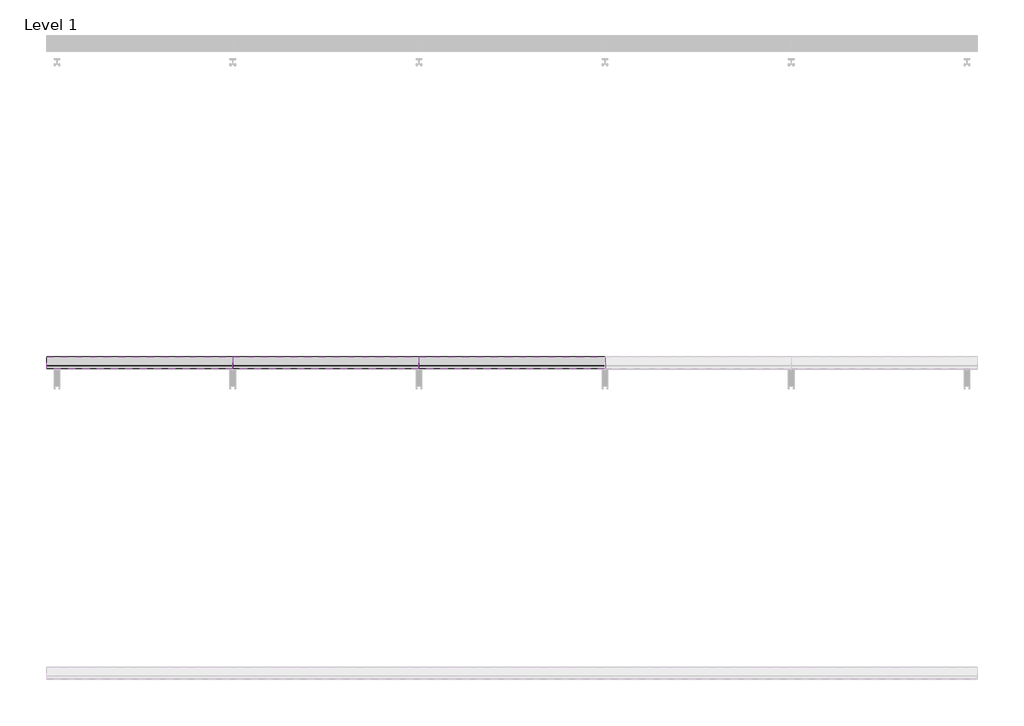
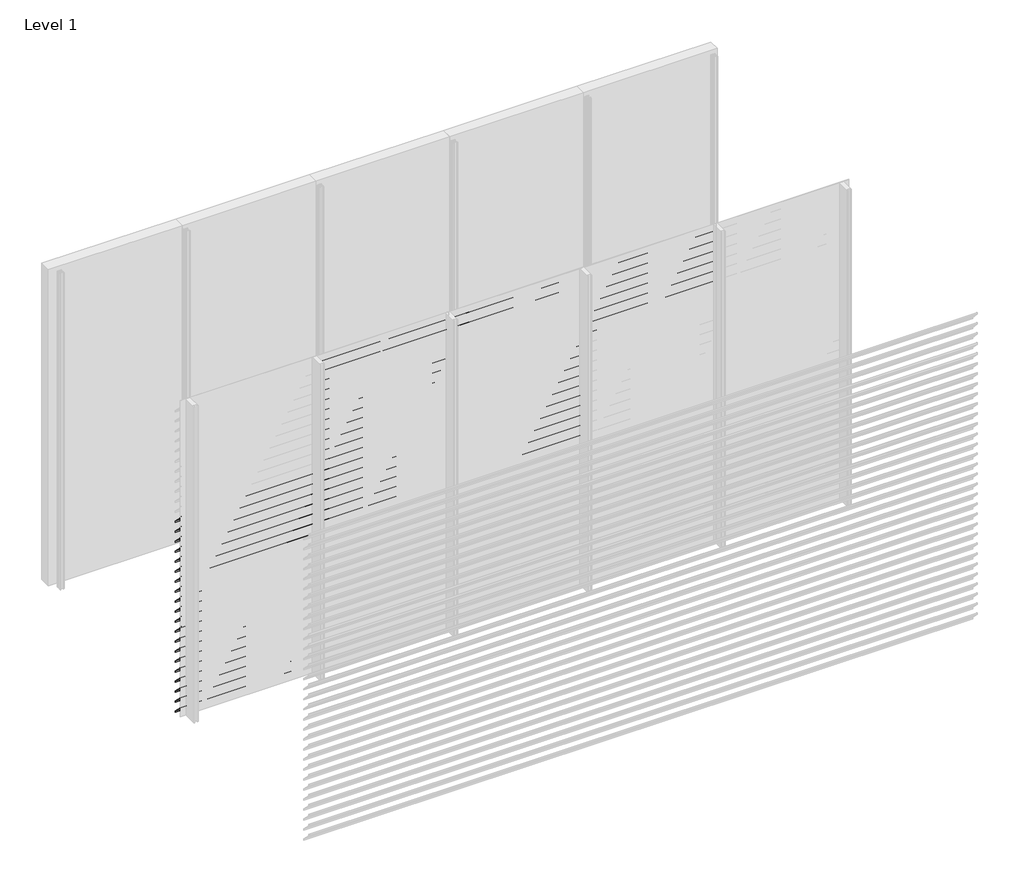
# One storey, part 6 of 24: 89 proxies.
"""IFC4 building model written with IfcOpenShell, lengths in millimetres."""

from ifc_helpers import new_model, si_unit, frame, origin, place, context, project, spatial, polyline, outline, extrude, element, save

model = new_model("IFC4")

# Units and contexts
model_context = context("Model", 3, world=origin())
ifc_project = project(units=[si_unit("LENGTHUNIT", "METRE", prefix="MILLI")], contexts=[model_context])

# Site, building, storey
site = spatial("IfcSite", under=ifc_project)
building = spatial("IfcBuilding", under=site)
storey = spatial("IfcBuildingStorey", under=building, Name="Level 1", Elevation=0.0)

# Proxies
placement = place(None, origin())
element("IfcBuildingElementProxy", 1, Name="Wall Sweeps", at=placement, inside=storey, context=model_context, shape_type="SweptSolid", body=[
    extrude(outline(polyline([(-47920.8, 1797.9), (-47922.3, 1797.9), (-47922.3, 1810.1762333), (-47998.0, 1885.4561238), (-47998.0, 1900.0), (-47996.5, 1900.0), (-47996.5, 1886.0798905), (-47920.8, 1810.8), (-47920.8, 1797.9)])), frame((0.0, 0.0, 0.0), z_axis=(1.0, 0.0, 0.0), x_axis=(0.0, 1.0, 0.0)), (0.0, 0.0, 1.0), 1200.0),
])
element("IfcBuildingElementProxy", 2, Name="Wall Sweeps", at=placement, inside=storey, context=model_context, shape_type="SweptSolid", body=[
    extrude(outline(polyline([(-47920.8, 1702.9), (-47922.3, 1702.9), (-47922.3, 1715.1762333), (-47998.0, 1790.4561238), (-47998.0, 1805.0), (-47996.5, 1805.0), (-47996.5, 1791.0798905), (-47920.8, 1715.8), (-47920.8, 1702.9)])), frame((0.0, 0.0, 0.0), z_axis=(1.0, 0.0, 0.0), x_axis=(0.0, 1.0, 0.0)), (0.0, 0.0, 1.0), 1200.0),
])
element("IfcBuildingElementProxy", 3, Name="Wall Sweeps", at=placement, inside=storey, context=model_context, shape_type="SweptSolid", body=[
    extrude(outline(polyline([(-47920.8, 1607.9), (-47922.3, 1607.9), (-47922.3, 1620.1762333), (-47998.0, 1695.4561238), (-47998.0, 1710.0), (-47996.5, 1710.0), (-47996.5, 1696.0798905), (-47920.8, 1620.8), (-47920.8, 1607.9)])), frame((0.0, 0.0, 0.0), z_axis=(1.0, 0.0, 0.0), x_axis=(0.0, 1.0, 0.0)), (0.0, 0.0, 1.0), 1200.0),
])
element("IfcBuildingElementProxy", 4, Name="Wall Sweeps", at=placement, inside=storey, context=model_context, shape_type="SweptSolid", body=[
    extrude(outline(polyline([(-47920.8, 1512.9), (-47922.3, 1512.9), (-47922.3, 1525.1762333), (-47998.0, 1600.4561238), (-47998.0, 1615.0), (-47996.5, 1615.0), (-47996.5, 1601.0798905), (-47920.8, 1525.8), (-47920.8, 1512.9)])), frame((0.0, 0.0, 0.0), z_axis=(1.0, 0.0, 0.0), x_axis=(0.0, 1.0, 0.0)), (0.0, 0.0, 1.0), 1200.0),
])
element("IfcBuildingElementProxy", 5, Name="Wall Sweeps", at=placement, inside=storey, context=model_context, shape_type="SweptSolid", body=[
    extrude(outline(polyline([(-47920.8, 1417.9), (-47922.3, 1417.9), (-47922.3, 1430.1762333), (-47998.0, 1505.4561238), (-47998.0, 1520.0), (-47996.5, 1520.0), (-47996.5, 1506.0798905), (-47920.8, 1430.8), (-47920.8, 1417.9)])), frame((0.0, 0.0, 0.0), z_axis=(1.0, 0.0, 0.0), x_axis=(0.0, 1.0, 0.0)), (0.0, 0.0, 1.0), 1200.0),
])
element("IfcBuildingElementProxy", 6, Name="Wall Sweeps", at=placement, inside=storey, context=model_context, shape_type="SweptSolid", body=[
    extrude(outline(polyline([(-47920.8, 1322.9), (-47922.3, 1322.9), (-47922.3, 1335.1762333), (-47998.0, 1410.4561238), (-47998.0, 1425.0), (-47996.5, 1425.0), (-47996.5, 1411.0798905), (-47920.8, 1335.8), (-47920.8, 1322.9)])), frame((0.0, 0.0, 0.0), z_axis=(1.0, 0.0, 0.0), x_axis=(0.0, 1.0, 0.0)), (0.0, 0.0, 1.0), 1200.0),
])
element("IfcBuildingElementProxy", 7, Name="Wall Sweeps", at=placement, inside=storey, context=model_context, shape_type="SweptSolid", body=[
    extrude(outline(polyline([(-47920.8, 1227.9), (-47922.3, 1227.9), (-47922.3, 1240.1762333), (-47998.0, 1315.4561238), (-47998.0, 1330.0), (-47996.5, 1330.0), (-47996.5, 1316.0798905), (-47920.8, 1240.8), (-47920.8, 1227.9)])), frame((0.0, 0.0, 0.0), z_axis=(1.0, 0.0, 0.0), x_axis=(0.0, 1.0, 0.0)), (0.0, 0.0, 1.0), 1200.0),
])
element("IfcBuildingElementProxy", 8, Name="Wall Sweeps", at=placement, inside=storey, context=model_context, shape_type="SweptSolid", body=[
    extrude(outline(polyline([(-47920.8, 1132.9), (-47922.3, 1132.9), (-47922.3, 1145.1762333), (-47998.0, 1220.4561238), (-47998.0, 1235.0), (-47996.5, 1235.0), (-47996.5, 1221.0798905), (-47920.8, 1145.8), (-47920.8, 1132.9)])), frame((0.0, 0.0, 0.0), z_axis=(1.0, 0.0, 0.0), x_axis=(0.0, 1.0, 0.0)), (0.0, 0.0, 1.0), 1200.0),
])
element("IfcBuildingElementProxy", 9, Name="Wall Sweeps", at=placement, inside=storey, context=model_context, shape_type="SweptSolid", body=[
    extrude(outline(polyline([(-47920.8, 1037.9), (-47922.3, 1037.9), (-47922.3, 1050.1762333), (-47998.0, 1125.4561238), (-47998.0, 1140.0), (-47996.5, 1140.0), (-47996.5, 1126.0798905), (-47920.8, 1050.8), (-47920.8, 1037.9)])), frame((0.0, 0.0, 0.0), z_axis=(1.0, 0.0, 0.0), x_axis=(0.0, 1.0, 0.0)), (0.0, 0.0, 1.0), 1200.0),
])
element("IfcBuildingElementProxy", 10, Name="Wall Sweeps", at=placement, inside=storey, context=model_context, shape_type="SweptSolid", body=[
    extrude(outline(polyline([(-47920.8, 942.9), (-47922.3, 942.9), (-47922.3, 955.1762333), (-47998.0, 1030.4561238), (-47998.0, 1045.0), (-47996.5, 1045.0), (-47996.5, 1031.0798905), (-47920.8, 955.8), (-47920.8, 942.9)])), frame((0.0, 0.0, 0.0), z_axis=(1.0, 0.0, 0.0), x_axis=(0.0, 1.0, 0.0)), (0.0, 0.0, 1.0), 1200.0),
])
element("IfcBuildingElementProxy", 11, Name="Wall Sweeps", at=placement, inside=storey, context=model_context, shape_type="SweptSolid", body=[
    extrude(outline(polyline([(-47920.8, 847.9), (-47922.3, 847.9), (-47922.3, 860.1762333), (-47998.0, 935.4561238), (-47998.0, 950.0), (-47996.5, 950.0), (-47996.5, 936.0798905), (-47920.8, 860.8), (-47920.8, 847.9)])), frame((0.0, 0.0, 0.0), z_axis=(1.0, 0.0, 0.0), x_axis=(0.0, 1.0, 0.0)), (0.0, 0.0, 1.0), 1200.0),
])
element("IfcBuildingElementProxy", 12, Name="Wall Sweeps", at=placement, inside=storey, context=model_context, shape_type="SweptSolid", body=[
    extrude(outline(polyline([(-47920.8, 752.9), (-47922.3, 752.9), (-47922.3, 765.1762333), (-47998.0, 840.4561238), (-47998.0, 855.0), (-47996.5, 855.0), (-47996.5, 841.0798905), (-47920.8, 765.8), (-47920.8, 752.9)])), frame((0.0, 0.0, 0.0), z_axis=(1.0, 0.0, 0.0), x_axis=(0.0, 1.0, 0.0)), (0.0, 0.0, 1.0), 1200.0),
])
element("IfcBuildingElementProxy", 13, Name="Wall Sweeps", at=placement, inside=storey, context=model_context, shape_type="SweptSolid", body=[
    extrude(outline(polyline([(-47920.8, 657.9), (-47922.3, 657.9), (-47922.3, 670.1762333), (-47998.0, 745.4561238), (-47998.0, 760.0), (-47996.5, 760.0), (-47996.5, 746.0798905), (-47920.8, 670.8), (-47920.8, 657.9)])), frame((0.0, 0.0, 0.0), z_axis=(1.0, 0.0, 0.0), x_axis=(0.0, 1.0, 0.0)), (0.0, 0.0, 1.0), 1200.0),
])
element("IfcBuildingElementProxy", 14, Name="Wall Sweeps", at=placement, inside=storey, context=model_context, shape_type="SweptSolid", body=[
    extrude(outline(polyline([(-47920.8, 562.9), (-47922.3, 562.9), (-47922.3, 575.1762333), (-47998.0, 650.4561238), (-47998.0, 665.0), (-47996.5, 665.0), (-47996.5, 651.0798905), (-47920.8, 575.8), (-47920.8, 562.9)])), frame((0.0, 0.0, 0.0), z_axis=(1.0, 0.0, 0.0), x_axis=(0.0, 1.0, 0.0)), (0.0, 0.0, 1.0), 1200.0),
])
element("IfcBuildingElementProxy", 15, Name="Wall Sweeps", at=placement, inside=storey, context=model_context, shape_type="SweptSolid", body=[
    extrude(outline(polyline([(-47920.8, 467.9), (-47922.3, 467.9), (-47922.3, 480.1762333), (-47998.0, 555.4561238), (-47998.0, 570.0), (-47996.5, 570.0), (-47996.5, 556.0798905), (-47920.8, 480.8), (-47920.8, 467.9)])), frame((0.0, 0.0, 0.0), z_axis=(1.0, 0.0, 0.0), x_axis=(0.0, 1.0, 0.0)), (0.0, 0.0, 1.0), 1200.0),
])
element("IfcBuildingElementProxy", 16, Name="Wall Sweeps", at=placement, inside=storey, context=model_context, shape_type="SweptSolid", body=[
    extrude(outline(polyline([(-47920.8, 372.9), (-47922.3, 372.9), (-47922.3, 385.1762333), (-47998.0, 460.4561238), (-47998.0, 475.0), (-47996.5, 475.0), (-47996.5, 461.0798905), (-47920.8, 385.8), (-47920.8, 372.9)])), frame((0.0, 0.0, 0.0), z_axis=(1.0, 0.0, 0.0), x_axis=(0.0, 1.0, 0.0)), (0.0, 0.0, 1.0), 1200.0),
])
element("IfcBuildingElementProxy", 17, Name="Wall Sweeps", at=placement, inside=storey, context=model_context, shape_type="SweptSolid", body=[
    extrude(outline(polyline([(-47920.8, 277.9), (-47922.3, 277.9), (-47922.3, 290.1762333), (-47998.0, 365.4561238), (-47998.0, 380.0), (-47996.5, 380.0), (-47996.5, 366.0798905), (-47920.8, 290.8), (-47920.8, 277.9)])), frame((0.0, 0.0, 0.0), z_axis=(1.0, 0.0, 0.0), x_axis=(0.0, 1.0, 0.0)), (0.0, 0.0, 1.0), 1200.0),
])
element("IfcBuildingElementProxy", 18, Name="Wall Sweeps", at=placement, inside=storey, context=model_context, shape_type="SweptSolid", body=[
    extrude(outline(polyline([(-47920.8, 182.9), (-47922.3, 182.9), (-47922.3, 195.1762333), (-47998.0, 270.4561238), (-47998.0, 285.0), (-47996.5, 285.0), (-47996.5, 271.0798905), (-47920.8, 195.8), (-47920.8, 182.9)])), frame((0.0, 0.0, 0.0), z_axis=(1.0, 0.0, 0.0), x_axis=(0.0, 1.0, 0.0)), (0.0, 0.0, 1.0), 1200.0),
])
element("IfcBuildingElementProxy", 19, Name="Wall Sweeps", at=placement, inside=storey, context=model_context, shape_type="SweptSolid", body=[
    extrude(outline(polyline([(-47920.8, 87.9), (-47922.3, 87.9), (-47922.3, 100.1762333), (-47998.0, 175.4561238), (-47998.0, 190.0), (-47996.5, 190.0), (-47996.5, 176.0798905), (-47920.8, 100.8), (-47920.8, 87.9)])), frame((0.0, 0.0, 0.0), z_axis=(1.0, 0.0, 0.0), x_axis=(0.0, 1.0, 0.0)), (0.0, 0.0, 1.0), 1200.0),
])
element("IfcBuildingElementProxy", 20, Name="Wall Sweeps", at=placement, inside=storey, context=model_context, shape_type="SweptSolid", body=[
    extrude(outline(polyline([(-47920.8, -7.1), (-47922.3, -7.1), (-47922.3, 5.1762333), (-47998.0, 80.4561238), (-47998.0, 95.0), (-47996.5, 95.0), (-47996.5, 81.0798905), (-47920.8, 5.8), (-47920.8, -7.1)])), frame((0.0, 0.0, 0.0), z_axis=(1.0, 0.0, 0.0), x_axis=(0.0, 1.0, 0.0)), (0.0, 0.0, 1.0), 1200.0),
])
element("IfcBuildingElementProxy", 21, Name="Wall Sweeps", at=placement, inside=storey, context=model_context, shape_type="SweptSolid", body=[
    extrude(outline(polyline([(-47920.8, 2842.9), (-47922.3, 2842.9), (-47922.3, 2855.1762333), (-47998.0, 2930.4561238), (-47998.0, 2945.0), (-47996.5, 2945.0), (-47996.5, 2931.0798905), (-47920.8, 2855.8), (-47920.8, 2842.9)])), frame((1200.0, 0.0, 0.0), z_axis=(1.0, 0.0, 0.0), x_axis=(0.0, 1.0, 0.0)), (0.0, 0.0, 1.0), 1200.0),
])
element("IfcBuildingElementProxy", 22, Name="Wall Sweeps", at=placement, inside=storey, context=model_context, shape_type="SweptSolid", body=[
    extrude(outline(polyline([(-47920.8, 2747.9), (-47922.3, 2747.9), (-47922.3, 2760.1762333), (-47998.0, 2835.4561238), (-47998.0, 2850.0), (-47996.5, 2850.0), (-47996.5, 2836.0798905), (-47920.8, 2760.8), (-47920.8, 2747.9)])), frame((1200.0, 0.0, 0.0), z_axis=(1.0, 0.0, 0.0), x_axis=(0.0, 1.0, 0.0)), (0.0, 0.0, 1.0), 1200.0),
])
element("IfcBuildingElementProxy", 23, Name="Wall Sweeps", at=placement, inside=storey, context=model_context, shape_type="SweptSolid", body=[
    extrude(outline(polyline([(-47920.8, 2652.9), (-47922.3, 2652.9), (-47922.3, 2665.1762333), (-47998.0, 2740.4561238), (-47998.0, 2755.0), (-47996.5, 2755.0), (-47996.5, 2741.0798905), (-47920.8, 2665.8), (-47920.8, 2652.9)])), frame((1200.0, 0.0, 0.0), z_axis=(1.0, 0.0, 0.0), x_axis=(0.0, 1.0, 0.0)), (0.0, 0.0, 1.0), 1200.0),
])
element("IfcBuildingElementProxy", 24, Name="Wall Sweeps", at=placement, inside=storey, context=model_context, shape_type="SweptSolid", body=[
    extrude(outline(polyline([(-47920.8, 2557.9), (-47922.3, 2557.9), (-47922.3, 2570.1762333), (-47998.0, 2645.4561238), (-47998.0, 2660.0), (-47996.5, 2660.0), (-47996.5, 2646.0798905), (-47920.8, 2570.8), (-47920.8, 2557.9)])), frame((1200.0, 0.0, 0.0), z_axis=(1.0, 0.0, 0.0), x_axis=(0.0, 1.0, 0.0)), (0.0, 0.0, 1.0), 1200.0),
])
element("IfcBuildingElementProxy", 25, Name="Wall Sweeps", at=placement, inside=storey, context=model_context, shape_type="SweptSolid", body=[
    extrude(outline(polyline([(-47920.8, 2462.9), (-47922.3, 2462.9), (-47922.3, 2475.1762333), (-47998.0, 2550.4561238), (-47998.0, 2565.0), (-47996.5, 2565.0), (-47996.5, 2551.0798905), (-47920.8, 2475.8), (-47920.8, 2462.9)])), frame((1200.0, 0.0, 0.0), z_axis=(1.0, 0.0, 0.0), x_axis=(0.0, 1.0, 0.0)), (0.0, 0.0, 1.0), 1200.0),
])
element("IfcBuildingElementProxy", 26, Name="Wall Sweeps", at=placement, inside=storey, context=model_context, shape_type="SweptSolid", body=[
    extrude(outline(polyline([(-47920.8, 2367.9), (-47922.3, 2367.9), (-47922.3, 2380.1762333), (-47998.0, 2455.4561238), (-47998.0, 2470.0), (-47996.5, 2470.0), (-47996.5, 2456.0798905), (-47920.8, 2380.8), (-47920.8, 2367.9)])), frame((1200.0, 0.0, 0.0), z_axis=(1.0, 0.0, 0.0), x_axis=(0.0, 1.0, 0.0)), (0.0, 0.0, 1.0), 1200.0),
])
element("IfcBuildingElementProxy", 27, Name="Wall Sweeps", at=placement, inside=storey, context=model_context, shape_type="SweptSolid", body=[
    extrude(outline(polyline([(-47920.8, 2272.9), (-47922.3, 2272.9), (-47922.3, 2285.1762333), (-47998.0, 2360.4561238), (-47998.0, 2375.0), (-47996.5, 2375.0), (-47996.5, 2361.0798905), (-47920.8, 2285.8), (-47920.8, 2272.9)])), frame((1200.0, 0.0, 0.0), z_axis=(1.0, 0.0, 0.0), x_axis=(0.0, 1.0, 0.0)), (0.0, 0.0, 1.0), 1200.0),
])
element("IfcBuildingElementProxy", 28, Name="Wall Sweeps", at=placement, inside=storey, context=model_context, shape_type="SweptSolid", body=[
    extrude(outline(polyline([(-47920.8, 2177.9), (-47922.3, 2177.9), (-47922.3, 2190.1762333), (-47998.0, 2265.4561238), (-47998.0, 2280.0), (-47996.5, 2280.0), (-47996.5, 2266.0798905), (-47920.8, 2190.8), (-47920.8, 2177.9)])), frame((1200.0, 0.0, 0.0), z_axis=(1.0, 0.0, 0.0), x_axis=(0.0, 1.0, 0.0)), (0.0, 0.0, 1.0), 1200.0),
])
element("IfcBuildingElementProxy", 29, Name="Wall Sweeps", at=placement, inside=storey, context=model_context, shape_type="SweptSolid", body=[
    extrude(outline(polyline([(-47920.8, 2082.9), (-47922.3, 2082.9), (-47922.3, 2095.1762333), (-47998.0, 2170.4561238), (-47998.0, 2185.0), (-47996.5, 2185.0), (-47996.5, 2171.0798905), (-47920.8, 2095.8), (-47920.8, 2082.9)])), frame((1200.0, 0.0, 0.0), z_axis=(1.0, 0.0, 0.0), x_axis=(0.0, 1.0, 0.0)), (0.0, 0.0, 1.0), 1200.0),
])
element("IfcBuildingElementProxy", 30, Name="Wall Sweeps", at=placement, inside=storey, context=model_context, shape_type="SweptSolid", body=[
    extrude(outline(polyline([(-47920.8, 1987.9), (-47922.3, 1987.9), (-47922.3, 2000.1762333), (-47998.0, 2075.4561238), (-47998.0, 2090.0), (-47996.5, 2090.0), (-47996.5, 2076.0798905), (-47920.8, 2000.8), (-47920.8, 1987.9)])), frame((1200.0, 0.0, 0.0), z_axis=(1.0, 0.0, 0.0), x_axis=(0.0, 1.0, 0.0)), (0.0, 0.0, 1.0), 1200.0),
])
element("IfcBuildingElementProxy", 31, Name="Wall Sweeps", at=placement, inside=storey, context=model_context, shape_type="SweptSolid", body=[
    extrude(outline(polyline([(-47920.8, 1892.9), (-47922.3, 1892.9), (-47922.3, 1905.1762333), (-47998.0, 1980.4561238), (-47998.0, 1995.0), (-47996.5, 1995.0), (-47996.5, 1981.0798905), (-47920.8, 1905.8), (-47920.8, 1892.9)])), frame((1200.0, 0.0, 0.0), z_axis=(1.0, 0.0, 0.0), x_axis=(0.0, 1.0, 0.0)), (0.0, 0.0, 1.0), 1200.0),
])
element("IfcBuildingElementProxy", 32, Name="Wall Sweeps", at=placement, inside=storey, context=model_context, shape_type="SweptSolid", body=[
    extrude(outline(polyline([(-47920.8, 1797.9), (-47922.3, 1797.9), (-47922.3, 1810.1762333), (-47998.0, 1885.4561238), (-47998.0, 1900.0), (-47996.5, 1900.0), (-47996.5, 1886.0798905), (-47920.8, 1810.8), (-47920.8, 1797.9)])), frame((1200.0, 0.0, 0.0), z_axis=(1.0, 0.0, 0.0), x_axis=(0.0, 1.0, 0.0)), (0.0, 0.0, 1.0), 1200.0),
])
element("IfcBuildingElementProxy", 33, Name="Wall Sweeps", at=placement, inside=storey, context=model_context, shape_type="SweptSolid", body=[
    extrude(outline(polyline([(-47920.8, 1702.9), (-47922.3, 1702.9), (-47922.3, 1715.1762333), (-47998.0, 1790.4561238), (-47998.0, 1805.0), (-47996.5, 1805.0), (-47996.5, 1791.0798905), (-47920.8, 1715.8), (-47920.8, 1702.9)])), frame((1200.0, 0.0, 0.0), z_axis=(1.0, 0.0, 0.0), x_axis=(0.0, 1.0, 0.0)), (0.0, 0.0, 1.0), 1200.0),
])
element("IfcBuildingElementProxy", 34, Name="Wall Sweeps", at=placement, inside=storey, context=model_context, shape_type="SweptSolid", body=[
    extrude(outline(polyline([(-47920.8, 1607.9), (-47922.3, 1607.9), (-47922.3, 1620.1762333), (-47998.0, 1695.4561238), (-47998.0, 1710.0), (-47996.5, 1710.0), (-47996.5, 1696.0798905), (-47920.8, 1620.8), (-47920.8, 1607.9)])), frame((1200.0, 0.0, 0.0), z_axis=(1.0, 0.0, 0.0), x_axis=(0.0, 1.0, 0.0)), (0.0, 0.0, 1.0), 1200.0),
])
element("IfcBuildingElementProxy", 35, Name="Wall Sweeps", at=placement, inside=storey, context=model_context, shape_type="SweptSolid", body=[
    extrude(outline(polyline([(-47920.8, 1512.9), (-47922.3, 1512.9), (-47922.3, 1525.1762333), (-47998.0, 1600.4561238), (-47998.0, 1615.0), (-47996.5, 1615.0), (-47996.5, 1601.0798905), (-47920.8, 1525.8), (-47920.8, 1512.9)])), frame((1200.0, 0.0, 0.0), z_axis=(1.0, 0.0, 0.0), x_axis=(0.0, 1.0, 0.0)), (0.0, 0.0, 1.0), 1200.0),
])
element("IfcBuildingElementProxy", 36, Name="Wall Sweeps", at=placement, inside=storey, context=model_context, shape_type="SweptSolid", body=[
    extrude(outline(polyline([(-47920.8, 1417.9), (-47922.3, 1417.9), (-47922.3, 1430.1762333), (-47998.0, 1505.4561238), (-47998.0, 1520.0), (-47996.5, 1520.0), (-47996.5, 1506.0798905), (-47920.8, 1430.8), (-47920.8, 1417.9)])), frame((1200.0, 0.0, 0.0), z_axis=(1.0, 0.0, 0.0), x_axis=(0.0, 1.0, 0.0)), (0.0, 0.0, 1.0), 1200.0),
])
element("IfcBuildingElementProxy", 37, Name="Wall Sweeps", at=placement, inside=storey, context=model_context, shape_type="SweptSolid", body=[
    extrude(outline(polyline([(-47920.8, 1322.9), (-47922.3, 1322.9), (-47922.3, 1335.1762333), (-47998.0, 1410.4561238), (-47998.0, 1425.0), (-47996.5, 1425.0), (-47996.5, 1411.0798905), (-47920.8, 1335.8), (-47920.8, 1322.9)])), frame((1200.0, 0.0, 0.0), z_axis=(1.0, 0.0, 0.0), x_axis=(0.0, 1.0, 0.0)), (0.0, 0.0, 1.0), 1200.0),
])
element("IfcBuildingElementProxy", 38, Name="Wall Sweeps", at=placement, inside=storey, context=model_context, shape_type="SweptSolid", body=[
    extrude(outline(polyline([(-47920.8, 1227.9), (-47922.3, 1227.9), (-47922.3, 1240.1762333), (-47998.0, 1315.4561238), (-47998.0, 1330.0), (-47996.5, 1330.0), (-47996.5, 1316.0798905), (-47920.8, 1240.8), (-47920.8, 1227.9)])), frame((1200.0, 0.0, 0.0), z_axis=(1.0, 0.0, 0.0), x_axis=(0.0, 1.0, 0.0)), (0.0, 0.0, 1.0), 1200.0),
])
element("IfcBuildingElementProxy", 39, Name="Wall Sweeps", at=placement, inside=storey, context=model_context, shape_type="SweptSolid", body=[
    extrude(outline(polyline([(-47920.8, 1132.9), (-47922.3, 1132.9), (-47922.3, 1145.1762333), (-47998.0, 1220.4561238), (-47998.0, 1235.0), (-47996.5, 1235.0), (-47996.5, 1221.0798905), (-47920.8, 1145.8), (-47920.8, 1132.9)])), frame((1200.0, 0.0, 0.0), z_axis=(1.0, 0.0, 0.0), x_axis=(0.0, 1.0, 0.0)), (0.0, 0.0, 1.0), 1200.0),
])
element("IfcBuildingElementProxy", 40, Name="Wall Sweeps", at=placement, inside=storey, context=model_context, shape_type="SweptSolid", body=[
    extrude(outline(polyline([(-47920.8, 1037.9), (-47922.3, 1037.9), (-47922.3, 1050.1762333), (-47998.0, 1125.4561238), (-47998.0, 1140.0), (-47996.5, 1140.0), (-47996.5, 1126.0798905), (-47920.8, 1050.8), (-47920.8, 1037.9)])), frame((1200.0, 0.0, 0.0), z_axis=(1.0, 0.0, 0.0), x_axis=(0.0, 1.0, 0.0)), (0.0, 0.0, 1.0), 1200.0),
])
element("IfcBuildingElementProxy", 41, Name="Wall Sweeps", at=placement, inside=storey, context=model_context, shape_type="SweptSolid", body=[
    extrude(outline(polyline([(-47920.8, 942.9), (-47922.3, 942.9), (-47922.3, 955.1762333), (-47998.0, 1030.4561238), (-47998.0, 1045.0), (-47996.5, 1045.0), (-47996.5, 1031.0798905), (-47920.8, 955.8), (-47920.8, 942.9)])), frame((1200.0, 0.0, 0.0), z_axis=(1.0, 0.0, 0.0), x_axis=(0.0, 1.0, 0.0)), (0.0, 0.0, 1.0), 1200.0),
])
element("IfcBuildingElementProxy", 42, Name="Wall Sweeps", at=placement, inside=storey, context=model_context, shape_type="SweptSolid", body=[
    extrude(outline(polyline([(-47920.8, 847.9), (-47922.3, 847.9), (-47922.3, 860.1762333), (-47998.0, 935.4561238), (-47998.0, 950.0), (-47996.5, 950.0), (-47996.5, 936.0798905), (-47920.8, 860.8), (-47920.8, 847.9)])), frame((1200.0, 0.0, 0.0), z_axis=(1.0, 0.0, 0.0), x_axis=(0.0, 1.0, 0.0)), (0.0, 0.0, 1.0), 1200.0),
])
element("IfcBuildingElementProxy", 43, Name="Wall Sweeps", at=placement, inside=storey, context=model_context, shape_type="SweptSolid", body=[
    extrude(outline(polyline([(-47920.8, 752.9), (-47922.3, 752.9), (-47922.3, 765.1762333), (-47998.0, 840.4561238), (-47998.0, 855.0), (-47996.5, 855.0), (-47996.5, 841.0798905), (-47920.8, 765.8), (-47920.8, 752.9)])), frame((1200.0, 0.0, 0.0), z_axis=(1.0, 0.0, 0.0), x_axis=(0.0, 1.0, 0.0)), (0.0, 0.0, 1.0), 1200.0),
])
element("IfcBuildingElementProxy", 44, Name="Wall Sweeps", at=placement, inside=storey, context=model_context, shape_type="SweptSolid", body=[
    extrude(outline(polyline([(-47920.8, 657.9), (-47922.3, 657.9), (-47922.3, 670.1762333), (-47998.0, 745.4561238), (-47998.0, 760.0), (-47996.5, 760.0), (-47996.5, 746.0798905), (-47920.8, 670.8), (-47920.8, 657.9)])), frame((1200.0, 0.0, 0.0), z_axis=(1.0, 0.0, 0.0), x_axis=(0.0, 1.0, 0.0)), (0.0, 0.0, 1.0), 1200.0),
])
element("IfcBuildingElementProxy", 45, Name="Wall Sweeps", at=placement, inside=storey, context=model_context, shape_type="SweptSolid", body=[
    extrude(outline(polyline([(-47920.8, 562.9), (-47922.3, 562.9), (-47922.3, 575.1762333), (-47998.0, 650.4561238), (-47998.0, 665.0), (-47996.5, 665.0), (-47996.5, 651.0798905), (-47920.8, 575.8), (-47920.8, 562.9)])), frame((1200.0, 0.0, 0.0), z_axis=(1.0, 0.0, 0.0), x_axis=(0.0, 1.0, 0.0)), (0.0, 0.0, 1.0), 1200.0),
])
element("IfcBuildingElementProxy", 46, Name="Wall Sweeps", at=placement, inside=storey, context=model_context, shape_type="SweptSolid", body=[
    extrude(outline(polyline([(-47920.8, 467.9), (-47922.3, 467.9), (-47922.3, 480.1762333), (-47998.0, 555.4561238), (-47998.0, 570.0), (-47996.5, 570.0), (-47996.5, 556.0798905), (-47920.8, 480.8), (-47920.8, 467.9)])), frame((1200.0, 0.0, 0.0), z_axis=(1.0, 0.0, 0.0), x_axis=(0.0, 1.0, 0.0)), (0.0, 0.0, 1.0), 1200.0),
])
element("IfcBuildingElementProxy", 47, Name="Wall Sweeps", at=placement, inside=storey, context=model_context, shape_type="SweptSolid", body=[
    extrude(outline(polyline([(-47920.8, 372.9), (-47922.3, 372.9), (-47922.3, 385.1762333), (-47998.0, 460.4561238), (-47998.0, 475.0), (-47996.5, 475.0), (-47996.5, 461.0798905), (-47920.8, 385.8), (-47920.8, 372.9)])), frame((1200.0, 0.0, 0.0), z_axis=(1.0, 0.0, 0.0), x_axis=(0.0, 1.0, 0.0)), (0.0, 0.0, 1.0), 1200.0),
])
element("IfcBuildingElementProxy", 48, Name="Wall Sweeps", at=placement, inside=storey, context=model_context, shape_type="SweptSolid", body=[
    extrude(outline(polyline([(-47920.8, 277.9), (-47922.3, 277.9), (-47922.3, 290.1762333), (-47998.0, 365.4561238), (-47998.0, 380.0), (-47996.5, 380.0), (-47996.5, 366.0798905), (-47920.8, 290.8), (-47920.8, 277.9)])), frame((1200.0, 0.0, 0.0), z_axis=(1.0, 0.0, 0.0), x_axis=(0.0, 1.0, 0.0)), (0.0, 0.0, 1.0), 1200.0),
])
element("IfcBuildingElementProxy", 49, Name="Wall Sweeps", at=placement, inside=storey, context=model_context, shape_type="SweptSolid", body=[
    extrude(outline(polyline([(-47920.8, 182.9), (-47922.3, 182.9), (-47922.3, 195.1762333), (-47998.0, 270.4561238), (-47998.0, 285.0), (-47996.5, 285.0), (-47996.5, 271.0798905), (-47920.8, 195.8), (-47920.8, 182.9)])), frame((1200.0, 0.0, 0.0), z_axis=(1.0, 0.0, 0.0), x_axis=(0.0, 1.0, 0.0)), (0.0, 0.0, 1.0), 1200.0),
])
element("IfcBuildingElementProxy", 50, Name="Wall Sweeps", at=placement, inside=storey, context=model_context, shape_type="SweptSolid", body=[
    extrude(outline(polyline([(-47920.8, 87.9), (-47922.3, 87.9), (-47922.3, 100.1762333), (-47998.0, 175.4561238), (-47998.0, 190.0), (-47996.5, 190.0), (-47996.5, 176.0798905), (-47920.8, 100.8), (-47920.8, 87.9)])), frame((1200.0, 0.0, 0.0), z_axis=(1.0, 0.0, 0.0), x_axis=(0.0, 1.0, 0.0)), (0.0, 0.0, 1.0), 1200.0),
])
element("IfcBuildingElementProxy", 51, Name="Wall Sweeps", at=placement, inside=storey, context=model_context, shape_type="SweptSolid", body=[
    extrude(outline(polyline([(-47920.8, -7.1), (-47922.3, -7.1), (-47922.3, 5.1762333), (-47998.0, 80.4561238), (-47998.0, 95.0), (-47996.5, 95.0), (-47996.5, 81.0798905), (-47920.8, 5.8), (-47920.8, -7.1)])), frame((1200.0, 0.0, 0.0), z_axis=(1.0, 0.0, 0.0), x_axis=(0.0, 1.0, 0.0)), (0.0, 0.0, 1.0), 1200.0),
])
element("IfcBuildingElementProxy", 52, Name="Wall Sweeps", at=placement, inside=storey, context=model_context, shape_type="SweptSolid", body=[
    extrude(outline(polyline([(-47920.8, 2842.9), (-47922.3, 2842.9), (-47922.3, 2855.1762333), (-47998.0, 2930.4561238), (-47998.0, 2945.0), (-47996.5, 2945.0), (-47996.5, 2931.0798905), (-47920.8, 2855.8), (-47920.8, 2842.9)])), frame((2400.0, 0.0, 0.0), z_axis=(1.0, 0.0, 0.0), x_axis=(0.0, 1.0, 0.0)), (0.0, 0.0, 1.0), 1200.0),
])
element("IfcBuildingElementProxy", 53, Name="Wall Sweeps", at=placement, inside=storey, context=model_context, shape_type="SweptSolid", body=[
    extrude(outline(polyline([(-47920.8, 2747.9), (-47922.3, 2747.9), (-47922.3, 2760.1762333), (-47998.0, 2835.4561238), (-47998.0, 2850.0), (-47996.5, 2850.0), (-47996.5, 2836.0798905), (-47920.8, 2760.8), (-47920.8, 2747.9)])), frame((2400.0, 0.0, 0.0), z_axis=(1.0, 0.0, 0.0), x_axis=(0.0, 1.0, 0.0)), (0.0, 0.0, 1.0), 1200.0),
])
element("IfcBuildingElementProxy", 54, Name="Wall Sweeps", at=placement, inside=storey, context=model_context, shape_type="SweptSolid", body=[
    extrude(outline(polyline([(-47920.8, 2652.9), (-47922.3, 2652.9), (-47922.3, 2665.1762333), (-47998.0, 2740.4561238), (-47998.0, 2755.0), (-47996.5, 2755.0), (-47996.5, 2741.0798905), (-47920.8, 2665.8), (-47920.8, 2652.9)])), frame((2400.0, 0.0, 0.0), z_axis=(1.0, 0.0, 0.0), x_axis=(0.0, 1.0, 0.0)), (0.0, 0.0, 1.0), 1200.0),
])
element("IfcBuildingElementProxy", 55, Name="Wall Sweeps", at=placement, inside=storey, context=model_context, shape_type="SweptSolid", body=[
    extrude(outline(polyline([(-47920.8, 2557.9), (-47922.3, 2557.9), (-47922.3, 2570.1762333), (-47998.0, 2645.4561238), (-47998.0, 2660.0), (-47996.5, 2660.0), (-47996.5, 2646.0798905), (-47920.8, 2570.8), (-47920.8, 2557.9)])), frame((2400.0, 0.0, 0.0), z_axis=(1.0, 0.0, 0.0), x_axis=(0.0, 1.0, 0.0)), (0.0, 0.0, 1.0), 1200.0),
])
element("IfcBuildingElementProxy", 56, Name="Wall Sweeps", at=placement, inside=storey, context=model_context, shape_type="SweptSolid", body=[
    extrude(outline(polyline([(-47920.8, 2462.9), (-47922.3, 2462.9), (-47922.3, 2475.1762333), (-47998.0, 2550.4561238), (-47998.0, 2565.0), (-47996.5, 2565.0), (-47996.5, 2551.0798905), (-47920.8, 2475.8), (-47920.8, 2462.9)])), frame((2400.0, 0.0, 0.0), z_axis=(1.0, 0.0, 0.0), x_axis=(0.0, 1.0, 0.0)), (0.0, 0.0, 1.0), 1200.0),
])
element("IfcBuildingElementProxy", 57, Name="Wall Sweeps", at=placement, inside=storey, context=model_context, shape_type="SweptSolid", body=[
    extrude(outline(polyline([(-47920.8, 2367.9), (-47922.3, 2367.9), (-47922.3, 2380.1762333), (-47998.0, 2455.4561238), (-47998.0, 2470.0), (-47996.5, 2470.0), (-47996.5, 2456.0798905), (-47920.8, 2380.8), (-47920.8, 2367.9)])), frame((2400.0, 0.0, 0.0), z_axis=(1.0, 0.0, 0.0), x_axis=(0.0, 1.0, 0.0)), (0.0, 0.0, 1.0), 1200.0),
])
element("IfcBuildingElementProxy", 58, Name="Wall Sweeps", at=placement, inside=storey, context=model_context, shape_type="SweptSolid", body=[
    extrude(outline(polyline([(-47920.8, 2272.9), (-47922.3, 2272.9), (-47922.3, 2285.1762333), (-47998.0, 2360.4561238), (-47998.0, 2375.0), (-47996.5, 2375.0), (-47996.5, 2361.0798905), (-47920.8, 2285.8), (-47920.8, 2272.9)])), frame((2400.0, 0.0, 0.0), z_axis=(1.0, 0.0, 0.0), x_axis=(0.0, 1.0, 0.0)), (0.0, 0.0, 1.0), 1200.0),
])
element("IfcBuildingElementProxy", 59, Name="Wall Sweeps", at=placement, inside=storey, context=model_context, shape_type="SweptSolid", body=[
    extrude(outline(polyline([(-47920.8, 2177.9), (-47922.3, 2177.9), (-47922.3, 2190.1762333), (-47998.0, 2265.4561238), (-47998.0, 2280.0), (-47996.5, 2280.0), (-47996.5, 2266.0798905), (-47920.8, 2190.8), (-47920.8, 2177.9)])), frame((2400.0, 0.0, 0.0), z_axis=(1.0, 0.0, 0.0), x_axis=(0.0, 1.0, 0.0)), (0.0, 0.0, 1.0), 1200.0),
])
element("IfcBuildingElementProxy", 60, Name="Wall Sweeps", at=placement, inside=storey, context=model_context, shape_type="SweptSolid", body=[
    extrude(outline(polyline([(-47920.8, 2082.9), (-47922.3, 2082.9), (-47922.3, 2095.1762333), (-47998.0, 2170.4561238), (-47998.0, 2185.0), (-47996.5, 2185.0), (-47996.5, 2171.0798905), (-47920.8, 2095.8), (-47920.8, 2082.9)])), frame((2400.0, 0.0, 0.0), z_axis=(1.0, 0.0, 0.0), x_axis=(0.0, 1.0, 0.0)), (0.0, 0.0, 1.0), 1200.0),
])
element("IfcBuildingElementProxy", 61, Name="Wall Sweeps", at=placement, inside=storey, context=model_context, shape_type="SweptSolid", body=[
    extrude(outline(polyline([(-47920.8, 1987.9), (-47922.3, 1987.9), (-47922.3, 2000.1762333), (-47998.0, 2075.4561238), (-47998.0, 2090.0), (-47996.5, 2090.0), (-47996.5, 2076.0798905), (-47920.8, 2000.8), (-47920.8, 1987.9)])), frame((2400.0, 0.0, 0.0), z_axis=(1.0, 0.0, 0.0), x_axis=(0.0, 1.0, 0.0)), (0.0, 0.0, 1.0), 1200.0),
])
element("IfcBuildingElementProxy", 62, Name="Wall Sweeps", at=placement, inside=storey, context=model_context, shape_type="SweptSolid", body=[
    extrude(outline(polyline([(-47920.8, 1892.9), (-47922.3, 1892.9), (-47922.3, 1905.1762333), (-47998.0, 1980.4561238), (-47998.0, 1995.0), (-47996.5, 1995.0), (-47996.5, 1981.0798905), (-47920.8, 1905.8), (-47920.8, 1892.9)])), frame((2400.0, 0.0, 0.0), z_axis=(1.0, 0.0, 0.0), x_axis=(0.0, 1.0, 0.0)), (0.0, 0.0, 1.0), 1200.0),
])
element("IfcBuildingElementProxy", 63, Name="Wall Sweeps", at=placement, inside=storey, context=model_context, shape_type="SweptSolid", body=[
    extrude(outline(polyline([(-47920.8, 1797.9), (-47922.3, 1797.9), (-47922.3, 1810.1762333), (-47998.0, 1885.4561238), (-47998.0, 1900.0), (-47996.5, 1900.0), (-47996.5, 1886.0798905), (-47920.8, 1810.8), (-47920.8, 1797.9)])), frame((2400.0, 0.0, 0.0), z_axis=(1.0, 0.0, 0.0), x_axis=(0.0, 1.0, 0.0)), (0.0, 0.0, 1.0), 1200.0),
])
element("IfcBuildingElementProxy", 64, Name="Wall Sweeps", at=placement, inside=storey, context=model_context, shape_type="SweptSolid", body=[
    extrude(outline(polyline([(-47920.8, 1702.9), (-47922.3, 1702.9), (-47922.3, 1715.1762333), (-47998.0, 1790.4561238), (-47998.0, 1805.0), (-47996.5, 1805.0), (-47996.5, 1791.0798905), (-47920.8, 1715.8), (-47920.8, 1702.9)])), frame((2400.0, 0.0, 0.0), z_axis=(1.0, 0.0, 0.0), x_axis=(0.0, 1.0, 0.0)), (0.0, 0.0, 1.0), 1200.0),
])
element("IfcBuildingElementProxy", 65, Name="Wall Sweeps", at=placement, inside=storey, context=model_context, shape_type="SweptSolid", body=[
    extrude(outline(polyline([(-47920.8, 1607.9), (-47922.3, 1607.9), (-47922.3, 1620.1762333), (-47998.0, 1695.4561238), (-47998.0, 1710.0), (-47996.5, 1710.0), (-47996.5, 1696.0798905), (-47920.8, 1620.8), (-47920.8, 1607.9)])), frame((2400.0, 0.0, 0.0), z_axis=(1.0, 0.0, 0.0), x_axis=(0.0, 1.0, 0.0)), (0.0, 0.0, 1.0), 1200.0),
])
element("IfcBuildingElementProxy", 66, Name="Wall Sweeps", at=placement, inside=storey, context=model_context, shape_type="SweptSolid", body=[
    extrude(outline(polyline([(-47920.8, 1512.9), (-47922.3, 1512.9), (-47922.3, 1525.1762333), (-47998.0, 1600.4561238), (-47998.0, 1615.0), (-47996.5, 1615.0), (-47996.5, 1601.0798905), (-47920.8, 1525.8), (-47920.8, 1512.9)])), frame((2400.0, 0.0, 0.0), z_axis=(1.0, 0.0, 0.0), x_axis=(0.0, 1.0, 0.0)), (0.0, 0.0, 1.0), 1200.0),
])
element("IfcBuildingElementProxy", 67, Name="Wall Sweeps", at=placement, inside=storey, context=model_context, shape_type="SweptSolid", body=[
    extrude(outline(polyline([(-47920.8, 1417.9), (-47922.3, 1417.9), (-47922.3, 1430.1762333), (-47998.0, 1505.4561238), (-47998.0, 1520.0), (-47996.5, 1520.0), (-47996.5, 1506.0798905), (-47920.8, 1430.8), (-47920.8, 1417.9)])), frame((2400.0, 0.0, 0.0), z_axis=(1.0, 0.0, 0.0), x_axis=(0.0, 1.0, 0.0)), (0.0, 0.0, 1.0), 1200.0),
])
element("IfcBuildingElementProxy", 68, Name="Wall Sweeps", at=placement, inside=storey, context=model_context, shape_type="SweptSolid", body=[
    extrude(outline(polyline([(-47920.8, 1322.9), (-47922.3, 1322.9), (-47922.3, 1335.1762333), (-47998.0, 1410.4561238), (-47998.0, 1425.0), (-47996.5, 1425.0), (-47996.5, 1411.0798905), (-47920.8, 1335.8), (-47920.8, 1322.9)])), frame((2400.0, 0.0, 0.0), z_axis=(1.0, 0.0, 0.0), x_axis=(0.0, 1.0, 0.0)), (0.0, 0.0, 1.0), 1200.0),
])
element("IfcBuildingElementProxy", 69, Name="Wall Sweeps", at=placement, inside=storey, context=model_context, shape_type="SweptSolid", body=[
    extrude(outline(polyline([(-47920.8, 1227.9), (-47922.3, 1227.9), (-47922.3, 1240.1762333), (-47998.0, 1315.4561238), (-47998.0, 1330.0), (-47996.5, 1330.0), (-47996.5, 1316.0798905), (-47920.8, 1240.8), (-47920.8, 1227.9)])), frame((2400.0, 0.0, 0.0), z_axis=(1.0, 0.0, 0.0), x_axis=(0.0, 1.0, 0.0)), (0.0, 0.0, 1.0), 1200.0),
])
element("IfcBuildingElementProxy", 70, Name="Wall Sweeps", at=placement, inside=storey, context=model_context, shape_type="SweptSolid", body=[
    extrude(outline(polyline([(-47920.8, 1132.9), (-47922.3, 1132.9), (-47922.3, 1145.1762333), (-47998.0, 1220.4561238), (-47998.0, 1235.0), (-47996.5, 1235.0), (-47996.5, 1221.0798905), (-47920.8, 1145.8), (-47920.8, 1132.9)])), frame((2400.0, 0.0, 0.0), z_axis=(1.0, 0.0, 0.0), x_axis=(0.0, 1.0, 0.0)), (0.0, 0.0, 1.0), 1200.0),
])
element("IfcBuildingElementProxy", 71, Name="Wall Sweeps", at=placement, inside=storey, context=model_context, shape_type="SweptSolid", body=[
    extrude(outline(polyline([(-47920.8, 1037.9), (-47922.3, 1037.9), (-47922.3, 1050.1762333), (-47998.0, 1125.4561238), (-47998.0, 1140.0), (-47996.5, 1140.0), (-47996.5, 1126.0798905), (-47920.8, 1050.8), (-47920.8, 1037.9)])), frame((2400.0, 0.0, 0.0), z_axis=(1.0, 0.0, 0.0), x_axis=(0.0, 1.0, 0.0)), (0.0, 0.0, 1.0), 1200.0),
])
element("IfcBuildingElementProxy", 72, Name="Wall Sweeps", at=placement, inside=storey, context=model_context, shape_type="SweptSolid", body=[
    extrude(outline(polyline([(-47920.8, 942.9), (-47922.3, 942.9), (-47922.3, 955.1762333), (-47998.0, 1030.4561238), (-47998.0, 1045.0), (-47996.5, 1045.0), (-47996.5, 1031.0798905), (-47920.8, 955.8), (-47920.8, 942.9)])), frame((2400.0, 0.0, 0.0), z_axis=(1.0, 0.0, 0.0), x_axis=(0.0, 1.0, 0.0)), (0.0, 0.0, 1.0), 1200.0),
])
element("IfcBuildingElementProxy", 73, Name="Wall Sweeps", at=placement, inside=storey, context=model_context, shape_type="SweptSolid", body=[
    extrude(outline(polyline([(-47920.8, 847.9), (-47922.3, 847.9), (-47922.3, 860.1762333), (-47998.0, 935.4561238), (-47998.0, 950.0), (-47996.5, 950.0), (-47996.5, 936.0798905), (-47920.8, 860.8), (-47920.8, 847.9)])), frame((2400.0, 0.0, 0.0), z_axis=(1.0, 0.0, 0.0), x_axis=(0.0, 1.0, 0.0)), (0.0, 0.0, 1.0), 1200.0),
])
element("IfcBuildingElementProxy", 74, Name="Wall Sweeps", at=placement, inside=storey, context=model_context, shape_type="SweptSolid", body=[
    extrude(outline(polyline([(-47920.8, 752.9), (-47922.3, 752.9), (-47922.3, 765.1762333), (-47998.0, 840.4561238), (-47998.0, 855.0), (-47996.5, 855.0), (-47996.5, 841.0798905), (-47920.8, 765.8), (-47920.8, 752.9)])), frame((2400.0, 0.0, 0.0), z_axis=(1.0, 0.0, 0.0), x_axis=(0.0, 1.0, 0.0)), (0.0, 0.0, 1.0), 1200.0),
])
element("IfcBuildingElementProxy", 75, Name="Wall Sweeps", at=placement, inside=storey, context=model_context, shape_type="SweptSolid", body=[
    extrude(outline(polyline([(-47920.8, 657.9), (-47922.3, 657.9), (-47922.3, 670.1762333), (-47998.0, 745.4561238), (-47998.0, 760.0), (-47996.5, 760.0), (-47996.5, 746.0798905), (-47920.8, 670.8), (-47920.8, 657.9)])), frame((2400.0, 0.0, 0.0), z_axis=(1.0, 0.0, 0.0), x_axis=(0.0, 1.0, 0.0)), (0.0, 0.0, 1.0), 1200.0),
])
element("IfcBuildingElementProxy", 76, Name="Wall Sweeps", at=placement, inside=storey, context=model_context, shape_type="SweptSolid", body=[
    extrude(outline(polyline([(-47920.8, 562.9), (-47922.3, 562.9), (-47922.3, 575.1762333), (-47998.0, 650.4561238), (-47998.0, 665.0), (-47996.5, 665.0), (-47996.5, 651.0798905), (-47920.8, 575.8), (-47920.8, 562.9)])), frame((2400.0, 0.0, 0.0), z_axis=(1.0, 0.0, 0.0), x_axis=(0.0, 1.0, 0.0)), (0.0, 0.0, 1.0), 1200.0),
])
element("IfcBuildingElementProxy", 77, Name="Wall Sweeps", at=placement, inside=storey, context=model_context, shape_type="SweptSolid", body=[
    extrude(outline(polyline([(-47920.8, 467.9), (-47922.3, 467.9), (-47922.3, 480.1762333), (-47998.0, 555.4561238), (-47998.0, 570.0), (-47996.5, 570.0), (-47996.5, 556.0798905), (-47920.8, 480.8), (-47920.8, 467.9)])), frame((2400.0, 0.0, 0.0), z_axis=(1.0, 0.0, 0.0), x_axis=(0.0, 1.0, 0.0)), (0.0, 0.0, 1.0), 1200.0),
])
element("IfcBuildingElementProxy", 78, Name="Wall Sweeps", at=placement, inside=storey, context=model_context, shape_type="SweptSolid", body=[
    extrude(outline(polyline([(-47920.8, 372.9), (-47922.3, 372.9), (-47922.3, 385.1762333), (-47998.0, 460.4561238), (-47998.0, 475.0), (-47996.5, 475.0), (-47996.5, 461.0798905), (-47920.8, 385.8), (-47920.8, 372.9)])), frame((2400.0, 0.0, 0.0), z_axis=(1.0, 0.0, 0.0), x_axis=(0.0, 1.0, 0.0)), (0.0, 0.0, 1.0), 1200.0),
])
element("IfcBuildingElementProxy", 79, Name="Wall Sweeps", at=placement, inside=storey, context=model_context, shape_type="SweptSolid", body=[
    extrude(outline(polyline([(-47920.8, 277.9), (-47922.3, 277.9), (-47922.3, 290.1762333), (-47998.0, 365.4561238), (-47998.0, 380.0), (-47996.5, 380.0), (-47996.5, 366.0798905), (-47920.8, 290.8), (-47920.8, 277.9)])), frame((2400.0, 0.0, 0.0), z_axis=(1.0, 0.0, 0.0), x_axis=(0.0, 1.0, 0.0)), (0.0, 0.0, 1.0), 1200.0),
])
element("IfcBuildingElementProxy", 80, Name="Wall Sweeps", at=placement, inside=storey, context=model_context, shape_type="SweptSolid", body=[
    extrude(outline(polyline([(-47920.8, 182.9), (-47922.3, 182.9), (-47922.3, 195.1762333), (-47998.0, 270.4561238), (-47998.0, 285.0), (-47996.5, 285.0), (-47996.5, 271.0798905), (-47920.8, 195.8), (-47920.8, 182.9)])), frame((2400.0, 0.0, 0.0), z_axis=(1.0, 0.0, 0.0), x_axis=(0.0, 1.0, 0.0)), (0.0, 0.0, 1.0), 1200.0),
])
element("IfcBuildingElementProxy", 81, Name="Wall Sweeps", at=placement, inside=storey, context=model_context, shape_type="SweptSolid", body=[
    extrude(outline(polyline([(-47920.8, 87.9), (-47922.3, 87.9), (-47922.3, 100.1762333), (-47998.0, 175.4561238), (-47998.0, 190.0), (-47996.5, 190.0), (-47996.5, 176.0798905), (-47920.8, 100.8), (-47920.8, 87.9)])), frame((2400.0, 0.0, 0.0), z_axis=(1.0, 0.0, 0.0), x_axis=(0.0, 1.0, 0.0)), (0.0, 0.0, 1.0), 1200.0),
])
element("IfcBuildingElementProxy", 82, Name="Wall Sweeps", at=placement, inside=storey, context=model_context, shape_type="SweptSolid", body=[
    extrude(outline(polyline([(-47920.8, -7.1), (-47922.3, -7.1), (-47922.3, 5.1762333), (-47998.0, 80.4561238), (-47998.0, 95.0), (-47996.5, 95.0), (-47996.5, 81.0798905), (-47920.8, 5.8), (-47920.8, -7.1)])), frame((2400.0, 0.0, 0.0), z_axis=(1.0, 0.0, 0.0), x_axis=(0.0, 1.0, 0.0)), (0.0, 0.0, 1.0), 1200.0),
])
element("IfcBuildingElementProxy", 83, Name="Wall Sweeps", at=placement, inside=storey, context=model_context, shape_type="SweptSolid", body=[
    extrude(outline(polyline([(-47920.8, 2842.9), (-47922.3, 2842.9), (-47922.3, 2855.1762333), (-47998.0, 2930.4561238), (-47998.0, 2945.0), (-47996.5, 2945.0), (-47996.5, 2931.0798905), (-47920.8, 2855.8), (-47920.8, 2842.9)])), frame((3600.0, 0.0, 0.0), z_axis=(1.0, 0.0, 0.0), x_axis=(0.0, 1.0, 0.0)), (0.0, 0.0, 1.0), 1200.0),
])
element("IfcBuildingElementProxy", 84, Name="Wall Sweeps", at=placement, inside=storey, context=model_context, shape_type="SweptSolid", body=[
    extrude(outline(polyline([(-47920.8, 2747.9), (-47922.3, 2747.9), (-47922.3, 2760.1762333), (-47998.0, 2835.4561238), (-47998.0, 2850.0), (-47996.5, 2850.0), (-47996.5, 2836.0798905), (-47920.8, 2760.8), (-47920.8, 2747.9)])), frame((3600.0, 0.0, 0.0), z_axis=(1.0, 0.0, 0.0), x_axis=(0.0, 1.0, 0.0)), (0.0, 0.0, 1.0), 1200.0),
])
element("IfcBuildingElementProxy", 85, Name="Wall Sweeps", at=placement, inside=storey, context=model_context, shape_type="SweptSolid", body=[
    extrude(outline(polyline([(-47920.8, 2652.9), (-47922.3, 2652.9), (-47922.3, 2665.1762333), (-47998.0, 2740.4561238), (-47998.0, 2755.0), (-47996.5, 2755.0), (-47996.5, 2741.0798905), (-47920.8, 2665.8), (-47920.8, 2652.9)])), frame((3600.0, 0.0, 0.0), z_axis=(1.0, 0.0, 0.0), x_axis=(0.0, 1.0, 0.0)), (0.0, 0.0, 1.0), 1200.0),
])
element("IfcBuildingElementProxy", 86, Name="Wall Sweeps", at=placement, inside=storey, context=model_context, shape_type="SweptSolid", body=[
    extrude(outline(polyline([(-47920.8, 2557.9), (-47922.3, 2557.9), (-47922.3, 2570.1762333), (-47998.0, 2645.4561238), (-47998.0, 2660.0), (-47996.5, 2660.0), (-47996.5, 2646.0798905), (-47920.8, 2570.8), (-47920.8, 2557.9)])), frame((3600.0, 0.0, 0.0), z_axis=(1.0, 0.0, 0.0), x_axis=(0.0, 1.0, 0.0)), (0.0, 0.0, 1.0), 1200.0),
])
element("IfcBuildingElementProxy", 87, Name="Wall Sweeps", at=placement, inside=storey, context=model_context, shape_type="SweptSolid", body=[
    extrude(outline(polyline([(-47920.8, 2462.9), (-47922.3, 2462.9), (-47922.3, 2475.1762333), (-47998.0, 2550.4561238), (-47998.0, 2565.0), (-47996.5, 2565.0), (-47996.5, 2551.0798905), (-47920.8, 2475.8), (-47920.8, 2462.9)])), frame((3600.0, 0.0, 0.0), z_axis=(1.0, 0.0, 0.0), x_axis=(0.0, 1.0, 0.0)), (0.0, 0.0, 1.0), 1200.0),
])
element("IfcBuildingElementProxy", 88, Name="Wall Sweeps", at=placement, inside=storey, context=model_context, shape_type="SweptSolid", body=[
    extrude(outline(polyline([(-47920.8, 2367.9), (-47922.3, 2367.9), (-47922.3, 2380.1762333), (-47998.0, 2455.4561238), (-47998.0, 2470.0), (-47996.5, 2470.0), (-47996.5, 2456.0798905), (-47920.8, 2380.8), (-47920.8, 2367.9)])), frame((3600.0, 0.0, 0.0), z_axis=(1.0, 0.0, 0.0), x_axis=(0.0, 1.0, 0.0)), (0.0, 0.0, 1.0), 1200.0),
])
element("IfcBuildingElementProxy", 89, Name="Wall Sweeps", at=placement, inside=storey, context=model_context, shape_type="SweptSolid", body=[
    extrude(outline(polyline([(-47920.8, 2272.9), (-47922.3, 2272.9), (-47922.3, 2285.1762333), (-47998.0, 2360.4561238), (-47998.0, 2375.0), (-47996.5, 2375.0), (-47996.5, 2361.0798905), (-47920.8, 2285.8), (-47920.8, 2272.9)])), frame((3600.0, 0.0, 0.0), z_axis=(1.0, 0.0, 0.0), x_axis=(0.0, 1.0, 0.0)), (0.0, 0.0, 1.0), 1200.0),
])

save(model, "model.ifc")
